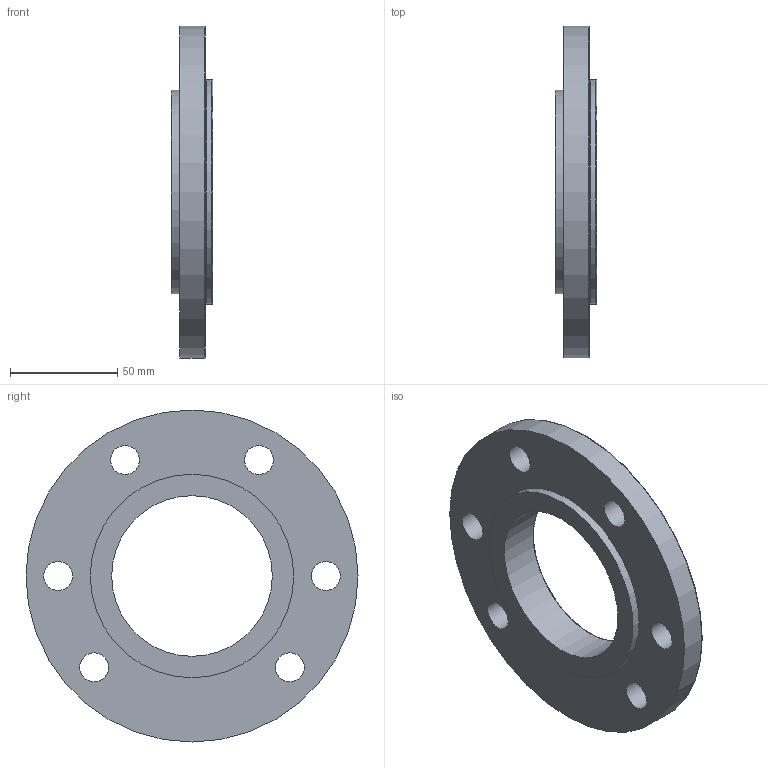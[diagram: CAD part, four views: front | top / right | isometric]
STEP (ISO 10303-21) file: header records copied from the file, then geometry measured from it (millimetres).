
FILE_DESCRIPTION((''),'2;1');
FILE_NAME('D:\PAWEŁ\ZLECENIA\2011 DualSystem\001 Modele\DKAB60_\DK_60_STEP\AZ_60.stp','2012-05-21T08:04:35',('admin'),(''),'Autodesk Inventor 2009','Autodesk Inventor 2009','');
FILE_SCHEMA(('AUTOMOTIVE_DESIGN { 1 0 10303 214 1 1 1 1 }'));
Length unit declared in the file: millimetre
Products named in the file (1): AZ_60
Bounding box: 19.5 x 155 x 155 mm (x, y, z)
Volume: 188589.5 mm3; surface area: 42727.5 mm2
Topology: 1 solids, 1 shells, 18 faces, 44 edges, 30 vertices
Faces by surface type: bspline 7, cylinder 4, plane 4, torus 3
Full cylindrical faces by diameter (mm): 75 x1, 95 x1, 105 x1, 155 x1
Entity records: 596 total; most frequent: CARTESIAN_POINT 213, DIRECTION 72, ORIENTED_EDGE 48, EDGE_LOOP 48, AXIS2_PLACEMENT_3D 36, FACE_BOUND 30, VERTEX_POINT 24, CIRCLE 24
